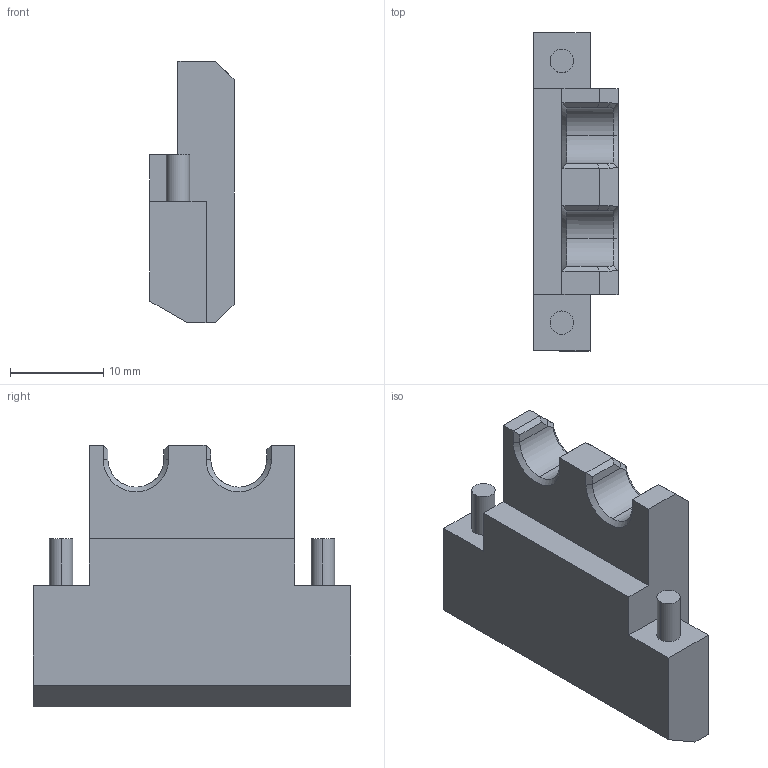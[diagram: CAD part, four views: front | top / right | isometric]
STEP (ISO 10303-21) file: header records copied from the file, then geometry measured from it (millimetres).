
FILE_DESCRIPTION (( 'STEP AP214' ), '1' );
FILE_NAME ('GZ47B.08_V1支撑板02.STEP', '2021-07-01T01:08:10', ( '微软中国' ), ( 'Microsoft' ), 'SwSTEP 2.0', 'SolidWorks 2017', '' );
FILE_SCHEMA (( 'AUTOMOTIVE_DESIGN' ));
Length unit declared in the file: millimetre
Products named in the file (1): GZ47B.08_V1盓傅啣02
Bounding box: 9 x 34 x 28 mm (x, y, z)
Volume: 5361.9 mm3; surface area: 2450.7 mm2
Topology: 1 solids, 1 shells, 57 faces, 141 edges, 88 vertices
Faces by surface type: plane 39, cylinder 8, cone 6, bspline 4
Entity records: 1802 total; most frequent: CARTESIAN_POINT 454, ORIENTED_EDGE 282, DIRECTION 251, EDGE_CURVE 141, VECTOR 99, LINE 99, VERTEX_POINT 88, AXIS2_PLACEMENT_3D 76
